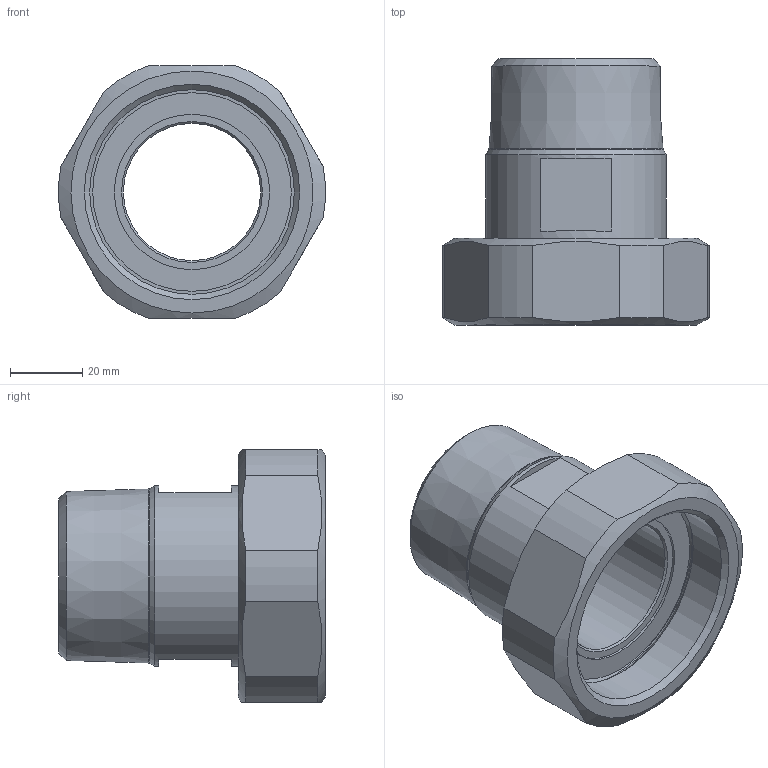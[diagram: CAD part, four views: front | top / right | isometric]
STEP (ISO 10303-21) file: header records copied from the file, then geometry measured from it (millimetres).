
FILE_DESCRIPTION( ( 'STEP AP203' ), '1' );
FILE_NAME( '//expscmdclustefs.cadenas.external/client_exchange/iodir/jobs/output/wkb81191021_no0/STEP/E40229_2_03.stp', ' ', ( ' ' ), ( ' ' ), 'PSStep 15.0.47', 'PARTsolutions', ' ' );
FILE_SCHEMA( ( 'CONFIG_CONTROL_DESIGN' ) );
Length unit declared in the file: millimetre
Products named in the file (1): _E40229
Bounding box: 73.85 x 73.7 x 70 mm (x, y, z)
Volume: 84151.8 mm3; surface area: 30199.4 mm2
Topology: 1 solids, 1 shells, 44 faces, 97 edges, 61 vertices
Faces by surface type: plane 19, cylinder 12, cone 10, torus 3
Full cylindrical faces by diameter (mm): 38 x1, 43 x1, 50 x1, 55 x1, 56.656 x1, 60 x1
Entity records: 1242 total; most frequent: CARTESIAN_POINT 315, DIRECTION 192, ORIENTED_EDGE 146, AXIS2_PLACEMENT_3D 86, EDGE_CURVE 73, EDGE_LOOP 72, VERTEX_POINT 57, FACE_OUTER_BOUND 53
